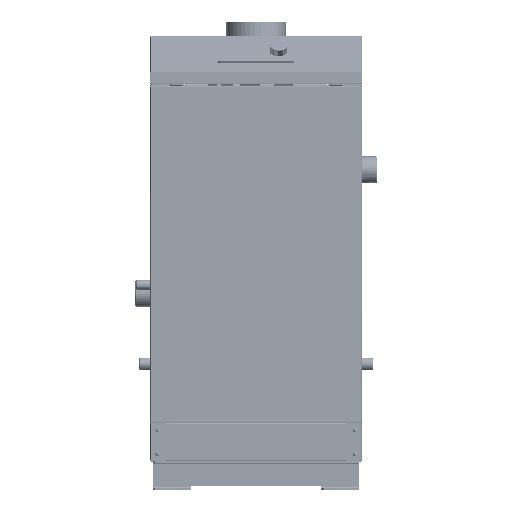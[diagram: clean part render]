
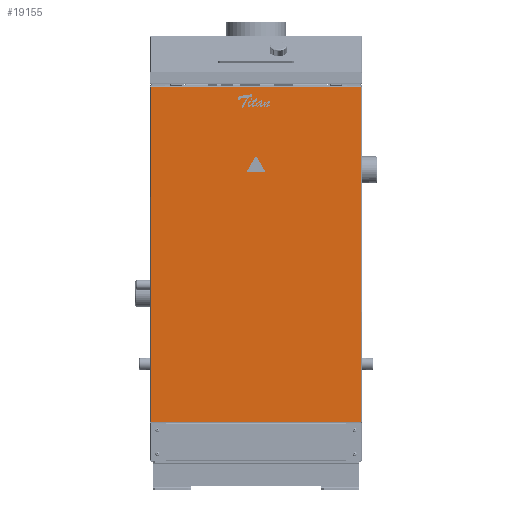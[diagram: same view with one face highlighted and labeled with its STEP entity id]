
A CAD part, top view. The second image highlights one B-rep face of the part: STEP entity #19155.
In plain terms, the highlighted planar face has unit normal (0, 0, 1) as drawn and (0, 1, 0) by its records, which use the part's own axes.
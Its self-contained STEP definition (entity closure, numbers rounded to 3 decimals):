
#19155=ADVANCED_FACE('',(#53973),#53975,.T.);
#53973=FACE_BOUND('',#53974,.T.);
#53974=EDGE_LOOP('',(#80327,#80328,#80329,#80330));
#53975=PLANE('',#53976);
#53976=AXIS2_PLACEMENT_3D('',#53977,#53978,#53979);
#53977=CARTESIAN_POINT('',(-0.,1.,0.));
#53978=DIRECTION('',(0.,1.,0.));
#53979=DIRECTION('',(-1.,0.,0.));
#80327=ORIENTED_EDGE('',*,*,#94819,.T.);
#80328=ORIENTED_EDGE('',*,*,#94840,.T.);
#80329=ORIENTED_EDGE('',*,*,#94843,.T.);
#80330=ORIENTED_EDGE('',*,*,#94849,.T.);
#94819=EDGE_CURVE('',#110937,#110906,#110947,.T.);
#94840=EDGE_CURVE('',#110906,#110903,#110977,.T.);
#94843=EDGE_CURVE('',#110903,#110929,#110981,.T.);
#94849=EDGE_CURVE('',#110929,#110937,#110989,.T.);
#110903=VERTEX_POINT('',#170296);
#110906=VERTEX_POINT('',#170324);
#110929=VERTEX_POINT('',#170421);
#110937=VERTEX_POINT('',#170460);
#110947=LINE('',#170526,#170527);
#110977=LINE('',#170600,#170601);
#110981=LINE('',#170610,#170611);
#110989=LINE('',#170630,#170631);
#170296=CARTESIAN_POINT('',(-220.5,1.,353.5));
#170324=CARTESIAN_POINT('',(-220.5,1.,-353.5));
#170421=CARTESIAN_POINT('',(220.5,1.,353.5));
#170460=CARTESIAN_POINT('',(220.5,1.,-353.5));
#170526=CARTESIAN_POINT('',(220.5,1.,-353.5));
#170527=VECTOR('',#170528,1.);
#170528=DIRECTION('',(-1.,0.,0.));
#170600=CARTESIAN_POINT('',(-220.5,1.,-353.5));
#170601=VECTOR('',#170602,1.);
#170602=DIRECTION('',(0.,0.,1.));
#170610=CARTESIAN_POINT('',(-220.5,1.,353.5));
#170611=VECTOR('',#170612,1.);
#170612=DIRECTION('',(1.,0.,0.));
#170630=CARTESIAN_POINT('',(220.5,1.,353.5));
#170631=VECTOR('',#170632,1.);
#170632=DIRECTION('',(0.,0.,-1.));
